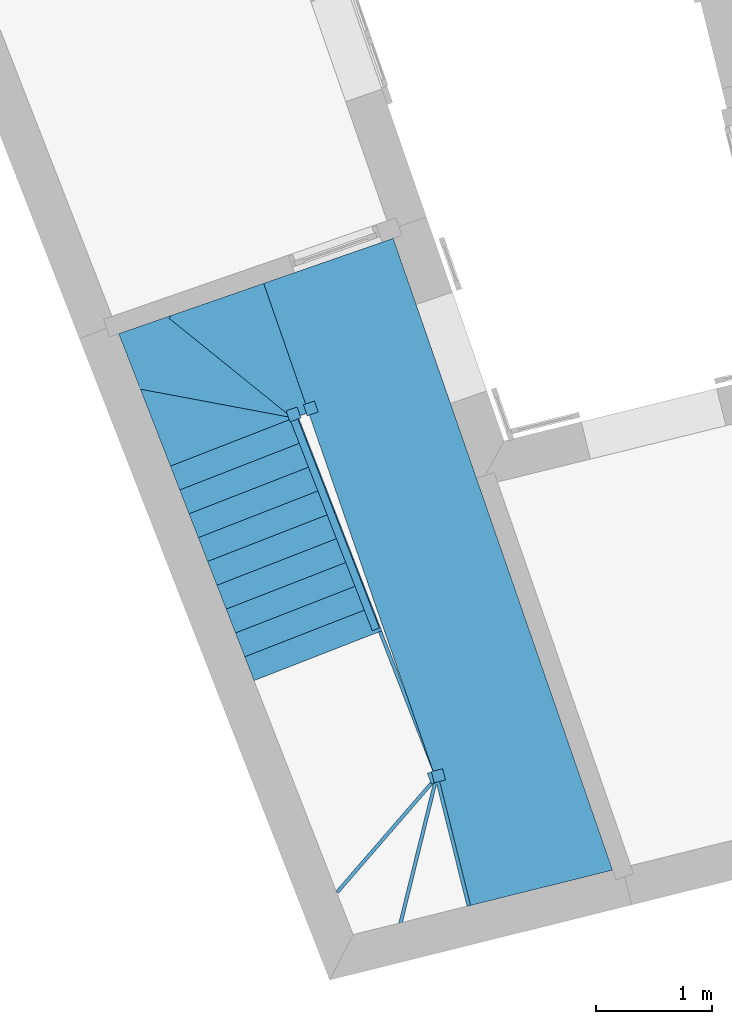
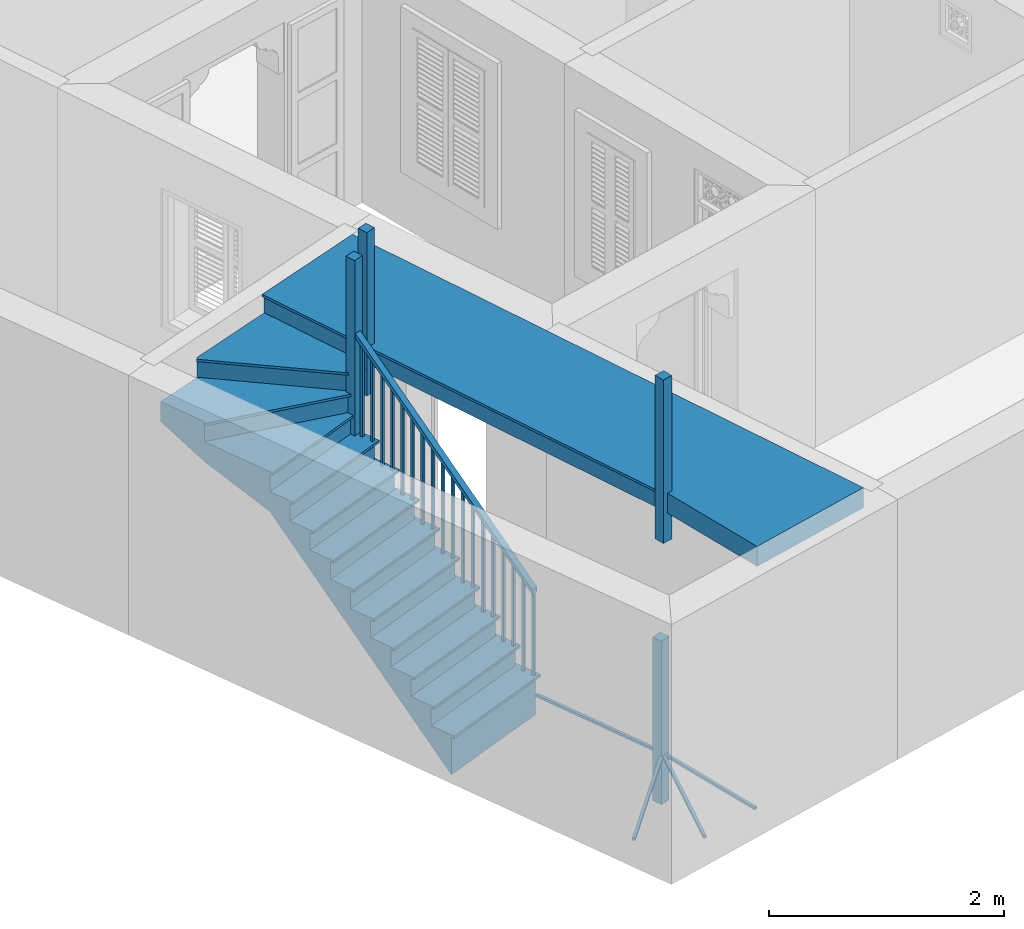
# One storey, part 12 of 12: 1 stair.
"""IFC4 building model written with IfcOpenShell, lengths in metres."""

import ifcopenshell
import ifcopenshell.guid

model = None  # the IFC model being written
_history = None  # IfcOwnerHistory: only IFC2X3 demands one
_inside = {}  # id of a spatial element -> (the spatial element, [elements in it])
_under = {}  # id of a project, library or spatial element -> (it, [spatial elements below it])
_declared = {}  # id of a project -> (the project, [libraries it declares])
_typed = {}  # id of a type object -> (the type object, [elements of that type])
_made_of = {}  # id of a material, layer set ... -> (it, [elements and type objects made of it])


def new_model(schema):
    """Start an empty IFC model of exactly this schema.

    Asked for "IFC4X3", IfcOpenShell would pick the latest addendum, in which some entities
    have other attributes; the version numbers below select the first issue.
    IFC2X3 requires an IfcOwnerHistory on every rooted entity: one is made here for all.
    """
    global model, _history
    if schema == "IFC4X3":
        model = ifcopenshell.file(schema_version=(4, 3, 0, 0))
    else:
        model = ifcopenshell.file(schema=schema)
    _inside.clear()
    _under.clear()
    _declared.clear()
    _typed.clear()
    _made_of.clear()
    _history = None
    if model.schema == "IFC2X3":
        org = make("IfcOrganization", Name="unknown")
        user = make(
            "IfcPersonAndOrganization",
            ThePerson=make("IfcPerson", FamilyName="unknown"),
            TheOrganization=org,
        )
        app = make(
            "IfcApplication",
            ApplicationDeveloper=org,
            Version="unknown",
            ApplicationFullName="unknown",
            ApplicationIdentifier="unknown",
        )
        _history = make(
            "IfcOwnerHistory",
            OwningUser=user,
            OwningApplication=app,
            ChangeAction="ADDED",
            CreationDate=0,
        )
    return model


def make(cls, **values):
    """One entity of the class cls with the attributes given. An attribute that is None is left unset."""
    return model.create_entity(
        cls, **{name: value for name, value in values.items() if value is not None}
    )


def rooted(cls, **values):
    """An entity with a GlobalId (a new one), such as an element, a storey or a relation."""
    return make(cls, GlobalId=ifcopenshell.guid.new(), OwnerHistory=_history, **values)


def si_unit(unit_type, name, prefix=None):
    """IfcSIUnit, for example si_unit("LENGTHUNIT", "METRE", prefix="MILLI")."""
    return make("IfcSIUnit", UnitType=unit_type, Prefix=prefix, Name=name)


def assignment(units):
    """IfcUnitAssignment: the units of a project."""
    return None if units is None else make("IfcUnitAssignment", Units=units)


def point(xyz):
    """IfcCartesianPoint."""
    return None if xyz is None else make("IfcCartesianPoint", Coordinates=xyz)


def direction(xyz):
    """IfcDirection."""
    return None if xyz is None else make("IfcDirection", DirectionRatios=xyz)


def frame(location, z_axis=None, x_axis=None):
    """IfcAxis2Placement3D, a coordinate frame: its origin and axes. An axis left out is left unset."""
    return make(
        "IfcAxis2Placement3D",
        Location=point(location),
        Axis=direction(z_axis),
        RefDirection=direction(x_axis),
    )


def origin():
    """The frame at (0, 0, 0) with its axes left unset."""
    return frame((0.0, 0.0, 0.0))


def origin_with_axes():
    """The frame at (0, 0, 0) with the z axis (0, 0, 1) and the x axis (1, 0, 0) written out."""
    return frame((0.0, 0.0, 0.0), z_axis=(0.0, 0.0, 1.0), x_axis=(1.0, 0.0, 0.0))


def place(relative_to, where):
    """IfcLocalPlacement: puts the frame where relative to a parent placement (None: the world)."""
    return make(
        "IfcLocalPlacement", PlacementRelTo=relative_to, RelativePlacement=where
    )


def context(
    kind, dimensions, precision=None, world=None, true_north=None, identifier=None
):
    """IfcGeometricRepresentationContext, for example the 3D "Model" context."""
    return make(
        "IfcGeometricRepresentationContext",
        ContextIdentifier=identifier,
        ContextType=kind,
        CoordinateSpaceDimension=dimensions,
        Precision=precision,
        WorldCoordinateSystem=world,
        TrueNorth=true_north,
    )


def subcontext(parent, identifier, kind, view, scale=None):
    """IfcGeometricRepresentationSubContext, for example "Body" below "Model"."""
    return make(
        "IfcGeometricRepresentationSubContext",
        ContextIdentifier=identifier,
        ContextType=kind,
        ParentContext=parent,
        TargetScale=scale,
        TargetView=view,
    )


def project(units=None, contexts=None):
    """IfcProject with its units and contexts."""
    return rooted(
        "IfcProject",
        Name="project",
        RepresentationContexts=contexts,
        UnitsInContext=assignment(units),
    )


def spatial(cls, under=None, at=None, **own):
    """A site, building, storey or space (cls), placed at a placement, below another one or the project."""
    s = rooted(cls, ObjectPlacement=at, **own)
    if under is not None:
        _under.setdefault(under.id(), (under, []))[1].append(s)
    return s


def faces_of(points, faces, orient=None, outer=None):
    """IfcFace entities. A face is a list of loops; a loop is a list of indices into points, from 0.

    orient and outer hold one flag for each loop. By default every Orientation is true, the
    first loop of a face is its IfcFaceOuterBound and the others are IfcFaceBound.
    """
    made = []
    for i, loops in enumerate(faces):
        bounds = []
        for j, loop in enumerate(loops):
            is_outer = j == 0 if outer is None else outer[i][j]
            bounds.append(
                make(
                    "IfcFaceOuterBound" if is_outer else "IfcFaceBound",
                    Bound=make("IfcPolyLoop", Polygon=[points[k] for k in loop]),
                    Orientation=True if orient is None else orient[i][j],
                )
            )
        made.append(make("IfcFace", Bounds=bounds))
    return made


def faceted_brep(points, faces, orient=None, outer=None, voids=None):
    """IfcFacetedBrep: a solid bounded by flat faces; with voids (closed shells), ...WithVoids."""
    shared = [point(p) for p in points]
    hull = make("IfcClosedShell", CfsFaces=faces_of(shared, faces, orient, outer))
    if voids is None:
        return make("IfcFacetedBrep", Outer=hull)
    return make(
        "IfcFacetedBrepWithVoids",
        Outer=hull,
        Voids=[
            make(cls, CfsFaces=faces_of(shared, fs, o, b)) for cls, fs, o, b in voids
        ],
    )


def shape(context_of_items, identifier, shape_type, items):
    """IfcShapeRepresentation: the items that make up one representation, for example the "Body"."""
    return make(
        "IfcShapeRepresentation",
        ContextOfItems=context_of_items,
        RepresentationIdentifier=identifier,
        RepresentationType=shape_type,
        Items=items,
    )


def made_of(thing, what):
    """Note that an element or type object is made of a material, layer set ...; save() writes the relation."""
    if what is not None:
        _made_of.setdefault(what.id(), (what, []))[1].append(thing)
    return thing


def element(
    cls,
    number,
    at=None,
    inside=None,
    cuts=None,
    type_object=None,
    material=None,
    context=None,
    identifier="Body",
    shape_type=None,
    held_by="IfcProductDefinitionShape",
    body=None,
    shapes=None,
    **own,
):
    """One element of the class cls, such as IfcWall. Its Tag is "e" and its number.

    at: its placement. inside: the storey or other place that contains it. cuts: it is an
    opening in that element (IfcRelVoidsElement). A single representation is given by context,
    identifier, shape_type and body (its items); several are given by shapes. held_by: the class
    of the entity that holds the representations. save() writes the other relations.
    """
    e = rooted(cls, Tag="e%d" % number, ObjectPlacement=at, **own)
    if body is not None:
        shapes = [shape(context, identifier, shape_type, body)]
    if shapes is not None:
        e.Representation = make(held_by, Representations=shapes)
    if inside is not None:
        _inside.setdefault(inside.id(), (inside, []))[1].append(e)
    if cuts is not None:
        rooted(
            "IfcRelVoidsElement", RelatingBuildingElement=cuts, RelatedOpeningElement=e
        )
    if type_object is not None:
        _typed.setdefault(type_object.id(), (type_object, []))[1].append(e)
    return made_of(e, material)


def aggregate(whole, parts):
    """IfcRelAggregates: a whole, such as a stair, and the parts it consists of."""
    return rooted("IfcRelAggregates", RelatingObject=whole, RelatedObjects=parts)


def save(model, path):
    """Write the relations noted so far, then the file.

    IfcRelAggregates (storeys below a building ...), IfcRelContainedInSpatialStructure (elements
    in a storey), IfcRelDefinesByType, IfcRelAssociatesMaterial and IfcRelDeclares: one each for
    every whole, place, type object, material and project.
    """
    for whole, parts in _under.values():
        aggregate(whole, parts)
    for where, things in _inside.values():
        rooted(
            "IfcRelContainedInSpatialStructure",
            RelatedElements=things,
            RelatingStructure=where,
        )
    for kind, things in _typed.values():
        rooted("IfcRelDefinesByType", RelatedObjects=things, RelatingType=kind)
    for what, things in _made_of.values():
        rooted("IfcRelAssociatesMaterial", RelatedObjects=things, RelatingMaterial=what)
    for by, libraries in _declared.values():
        rooted("IfcRelDeclares", RelatingContext=by, RelatedDefinitions=libraries)
    model.write(path)


model = new_model("IFC4")

# Units and contexts
model_context = context("Model", 3, world=origin_with_axes())
body_context = subcontext(model_context, "Body", "Model", "MODEL_VIEW")
ifc_project = project(units=[si_unit("PLANEANGLEUNIT", "RADIAN"), si_unit("MASSUNIT", "GRAM", prefix="KILO"), si_unit("FORCEUNIT", "NEWTON", prefix="KILO"), si_unit("LENGTHUNIT", "METRE"), si_unit("AREAUNIT", "SQUARE_METRE"), si_unit("VOLUMEUNIT", "CUBIC_METRE")], contexts=[model_context, model_context])

# Site, building, storey
site_placement = place(None, origin_with_axes())
site = spatial("IfcSite", under=ifc_project, at=site_placement, Name="Site plot-1", CompositionType="ELEMENT")
building_placement = place(None, origin_with_axes())
building = spatial("IfcBuilding", under=site, at=building_placement, Name="Building plot-1", CompositionType="ELEMENT")
storey_placement = place(None, origin_with_axes())
storey = spatial("IfcBuildingStorey", under=building, at=storey_placement, Name="plot-1 0", CompositionType="ELEMENT", Elevation=0.0)

# Stair
stair_placement = place(None, origin())
element("IfcStair", 1, at=stair_placement, inside=storey, Name="Stair", PredefinedType="NOTDEFINED", context=body_context, shape_type="Brep", body=[
    faceted_brep([(-1.281854, 18.426193, 2.492308), (-1.658682, 19.511182, 2.492308), (-1.806991, 19.459673, 2.492308), (-1.430163, 18.374684, 2.492308), (-1.430163, 18.374684, 2.284615), (-1.806991, 19.459673, 2.284615), (-1.658682, 19.511182, 2.284615), (-1.281854, 18.426193, 2.284615)], [[[0, 1, 2, 3]], [[4, 5, 6, 7]], [[7, 6, 1, 0]], [[6, 5, 2, 1]], [[5, 4, 3, 2]], [[4, 7, 0, 3]]]),
    faceted_brep([(-1.430163, 18.374684, 2.467308), (-1.420321, 18.346345, 2.467308), (-1.430163, 18.374684, 2.492308), (-1.272012, 18.397854, 2.467308), (-1.281854, 18.426193, 2.467308), (-1.281854, 18.426193, 2.492308), (-1.420321, 18.346345, 2.492308), (-1.272012, 18.397854, 2.492308)], [[[0, 1, 2]], [[3, 4, 5]], [[1, 6, 2]], [[7, 3, 5]], [[2, 6, 7, 5]], [[0, 2, 5, 4]], [[1, 0, 4, 3]], [[6, 1, 3, 7]]]),
    faceted_brep([(-1.460991, 18.311048, 3.692308), (-1.366526, 18.343856, 3.692308), (-1.399335, 18.438321, 3.692308), (-1.4938, 18.405512, 3.692308), (-1.4938, 18.405512, 2.492308), (-1.399335, 18.438321, 2.492308), (-1.366526, 18.343856, 2.492308), (-1.460991, 18.311048, 2.492308)], [[[0, 1, 2, 3]], [[4, 5, 6, 7]], [[7, 6, 1, 0]], [[6, 5, 2, 1]], [[5, 4, 3, 2]], [[4, 7, 0, 3]]]),
    faceted_brep([(-1.806991, 19.459673, 2.492308), (-2.482915, 19.224917, 2.492308), (-1.430163, 18.374684, 2.492308), (-1.430163, 18.374684, 2.076923), (-2.482915, 19.224917, 2.076923), (-1.806991, 19.459673, 2.284615)], [[[0, 1, 2]], [[3, 4, 5]], [[0, 5, 4, 1]], [[4, 3, 2, 1]], [[2, 3, 5, 0]]]),
    faceted_brep([(-2.501764, 19.201579, 2.467308), (-2.501764, 19.201579, 2.492308), (-2.482915, 19.224917, 2.467308), (-1.449012, 18.351345, 2.492308), (-1.449012, 18.351345, 2.467308), (-1.430163, 18.374684, 2.467308), (-2.482915, 19.224917, 2.492308), (-1.430163, 18.374684, 2.492308)], [[[0, 1, 2]], [[3, 4, 5]], [[2, 1, 6]], [[3, 5, 7]], [[6, 1, 3, 7]], [[2, 6, 7, 5]], [[0, 2, 5, 4]], [[1, 0, 4, 3]]]),
    faceted_brep([(-2.482915, 19.224917, 2.284615), (-2.933531, 19.068414, 2.284615), (-2.760211, 18.623995, 2.284615), (-1.430163, 18.374684, 2.284615), (-1.430163, 18.374684, 1.869231), (-2.760211, 18.623995, 1.869231), (-2.933531, 19.068414, 2.076923), (-2.482915, 19.224917, 2.076923)], [[[0, 1, 2, 3]], [[4, 5, 6, 7]], [[7, 6, 1, 0]], [[1, 6, 5, 2]], [[5, 4, 3, 2]], [[3, 4, 7, 0]]]),
    faceted_brep([(-2.760211, 18.623995, 2.259615), (-2.765738, 18.594508, 2.259615), (-2.760211, 18.623995, 2.284615), (-1.43569, 18.345198, 2.259615), (-1.430163, 18.374684, 2.259615), (-1.430163, 18.374684, 2.284615), (-2.765738, 18.594508, 2.284615), (-1.43569, 18.345198, 2.284615)], [[[0, 1, 2]], [[3, 4, 5]], [[1, 6, 2]], [[7, 3, 5]], [[2, 6, 7, 5]], [[0, 2, 5, 4]], [[1, 0, 4, 3]], [[6, 1, 3, 7]]]),
    faceted_brep([(-2.760211, 18.623995, 2.076923), (-2.500231, 17.957366, 2.076923), (-1.430163, 18.374684, 2.076923), (-1.430163, 18.374684, 1.661538), (-2.500231, 17.957366, 1.661538), (-2.760211, 18.623995, 1.869231)], [[[0, 1, 2]], [[3, 4, 5]], [[0, 5, 4, 1]], [[4, 3, 2, 1]], [[2, 3, 5, 0]]]),
    faceted_brep([(-2.500231, 17.957366, 2.051923), (-2.489331, 17.929416, 2.051923), (-2.500231, 17.957366, 2.076923), (-1.419263, 18.346735, 2.051923), (-1.430163, 18.374684, 2.051923), (-1.430163, 18.374684, 2.076923), (-2.489331, 17.929416, 2.076923), (-1.419263, 18.346735, 2.076923)], [[[0, 1, 2]], [[3, 4, 5]], [[1, 6, 2]], [[7, 3, 5]], [[2, 6, 7, 5]], [[0, 2, 5, 4]], [[1, 0, 4, 3]], [[6, 1, 3, 7]]]),
    faceted_brep([(-1.460991, 18.311048, 2.492308), (-1.366526, 18.343856, 2.492308), (-1.399335, 18.438321, 2.492308), (-1.4938, 18.405512, 2.492308), (-1.4938, 18.405512, 1.576923), (-1.399335, 18.438321, 1.576923), (-1.366526, 18.343856, 1.576923), (-1.460991, 18.311048, 1.576923)], [[[0, 1, 2, 3]], [[4, 5, 6, 7]], [[7, 6, 1, 0]], [[6, 5, 2, 1]], [[5, 4, 3, 2]], [[4, 7, 0, 3]]]),
    faceted_brep([(-1.430163, 18.374684, 1.869231), (-2.500231, 17.957366, 1.869231), (-2.420296, 17.752402, 1.869231), (-1.350228, 18.16972, 1.869231), (-1.350228, 18.16972, 1.453846), (-2.420296, 17.752402, 1.453846), (-2.500231, 17.957366, 1.661538), (-1.430163, 18.374684, 1.661538)], [[[0, 1, 2, 3]], [[4, 5, 6, 7]], [[7, 6, 1, 0]], [[1, 6, 5, 2]], [[5, 4, 3, 2]], [[3, 4, 7, 0]]]),
    faceted_brep([(-2.420296, 17.752402, 1.844231), (-2.409396, 17.724452, 1.844231), (-2.420296, 17.752402, 1.869231), (-2.511131, 17.985316, 1.844231), (-2.500231, 17.957366, 1.844231), (-2.500231, 17.957366, 1.869231), (-2.409396, 17.724452, 1.869231), (-2.511131, 17.985316, 1.869231), (-1.311379, 18.15267, 1.869231), (-1.350228, 18.16972, 1.869231), (-1.350228, 18.16972, 1.844231), (-1.311379, 18.15267, 1.844231), (-1.413114, 18.413534, 1.869231), (-1.430163, 18.374684, 1.869231), (-1.430163, 18.374684, 1.844231), (-1.413114, 18.413534, 1.844231)], [[[0, 1, 2]], [[3, 4, 5]], [[1, 6, 2]], [[7, 3, 5]], [[2, 6, 8, 9]], [[0, 2, 9, 10]], [[1, 0, 10, 11]], [[6, 1, 11, 8]], [[9, 8, 12, 13]], [[10, 9, 13, 14]], [[11, 10, 14, 15]], [[8, 11, 15, 12]], [[13, 12, 7, 5]], [[14, 13, 5, 4]], [[15, 14, 4, 3]], [[12, 15, 3, 7]]]),
    faceted_brep([(-1.350228, 18.16972, 2.769231), (-1.359312, 18.193011, 2.769231), (-1.382603, 18.183928, 2.769231), (-1.37352, 18.160636, 2.769231), (-1.37352, 18.160636, 1.869231), (-1.382603, 18.183928, 1.869231), (-1.359312, 18.193011, 1.869231), (-1.350228, 18.16972, 1.869231)], [[[0, 1, 2, 3]], [[4, 5, 6, 7]], [[7, 6, 1, 0]], [[6, 5, 2, 1]], [[5, 4, 3, 2]], [[4, 7, 0, 3]]]),
    faceted_brep([(-1.390196, 18.272202, 2.873077), (-1.399279, 18.295493, 2.873077), (-1.422571, 18.28641, 2.873077), (-1.413487, 18.263119, 2.873077), (-1.413487, 18.263119, 1.869231), (-1.422571, 18.28641, 1.869231), (-1.399279, 18.295493, 1.869231), (-1.390196, 18.272202, 1.869231)], [[[0, 1, 2, 3]], [[4, 5, 6, 7]], [[7, 6, 1, 0]], [[6, 5, 2, 1]], [[5, 4, 3, 2]], [[4, 7, 0, 3]]]),
    faceted_brep([(-1.392153, 18.153369, 2.719231), (-1.331595, 18.176987, 2.719231), (-1.331595, 18.176987, 2.769231), (-1.392153, 18.153369, 2.769231), (-1.41153, 18.381951, 2.926923), (-1.472088, 18.358334, 2.926923), (-1.472088, 18.358334, 2.976923), (-1.41153, 18.381951, 2.976923)], [[[0, 1, 2, 3]], [[4, 5, 6, 7]], [[0, 5, 4, 1]], [[3, 2, 7, 6]], [[0, 3, 6, 5]], [[2, 1, 4, 7]]]),
    faceted_brep([(-1.350228, 18.16972, 1.661538), (-2.420296, 17.752402, 1.661538), (-2.340362, 17.547437, 1.661538), (-1.270294, 17.964755, 1.661538), (-1.270294, 17.964755, 1.246154), (-2.340362, 17.547437, 1.246154), (-2.420296, 17.752402, 1.453846), (-1.350228, 18.16972, 1.453846)], [[[0, 1, 2, 3]], [[4, 5, 6, 7]], [[7, 6, 1, 0]], [[1, 6, 5, 2]], [[5, 4, 3, 2]], [[3, 4, 7, 0]]]),
    faceted_brep([(-2.340362, 17.547437, 1.636538), (-2.329461, 17.519487, 1.636538), (-2.340362, 17.547437, 1.661538), (-2.431196, 17.780351, 1.636538), (-2.420296, 17.752402, 1.636538), (-2.420296, 17.752402, 1.661538), (-2.329461, 17.519487, 1.661538), (-2.431196, 17.780351, 1.661538), (-1.231444, 17.947706, 1.661538), (-1.270294, 17.964755, 1.661538), (-1.270294, 17.964755, 1.636538), (-1.231444, 17.947706, 1.636538), (-1.333179, 18.20857, 1.661538), (-1.350228, 18.16972, 1.661538), (-1.350228, 18.16972, 1.636538), (-1.333179, 18.20857, 1.636538)], [[[0, 1, 2]], [[3, 4, 5]], [[1, 6, 2]], [[7, 3, 5]], [[2, 6, 8, 9]], [[0, 2, 9, 10]], [[1, 0, 10, 11]], [[6, 1, 11, 8]], [[9, 8, 12, 13]], [[10, 9, 13, 14]], [[11, 10, 14, 15]], [[8, 11, 15, 12]], [[13, 12, 7, 5]], [[14, 13, 5, 4]], [[15, 14, 4, 3]], [[12, 15, 3, 7]]]),
    faceted_brep([(-1.270294, 17.964755, 2.561538), (-1.279377, 17.988047, 2.561538), (-1.302669, 17.978963, 2.561538), (-1.293585, 17.955672, 2.561538), (-1.293585, 17.955672, 1.661538), (-1.302669, 17.978963, 1.661538), (-1.279377, 17.988047, 1.661538), (-1.270294, 17.964755, 1.661538)], [[[0, 1, 2, 3]], [[4, 5, 6, 7]], [[7, 6, 1, 0]], [[6, 5, 2, 1]], [[5, 4, 3, 2]], [[4, 7, 0, 3]]]),
    faceted_brep([(-1.310261, 18.067237, 2.665385), (-1.319345, 18.090529, 2.665385), (-1.342636, 18.081445, 2.665385), (-1.333553, 18.058154, 2.665385), (-1.333553, 18.058154, 1.661538), (-1.342636, 18.081445, 1.661538), (-1.319345, 18.090529, 1.661538), (-1.310261, 18.067237, 1.661538)], [[[0, 1, 2, 3]], [[4, 5, 6, 7]], [[7, 6, 1, 0]], [[6, 5, 2, 1]], [[5, 4, 3, 2]], [[4, 7, 0, 3]]]),
    faceted_brep([(-1.312218, 17.948405, 2.511538), (-1.251661, 17.972022, 2.511538), (-1.251661, 17.972022, 2.561538), (-1.312218, 17.948405, 2.561538), (-1.331595, 18.176987, 2.719231), (-1.392153, 18.153369, 2.719231), (-1.392153, 18.153369, 2.769231), (-1.331595, 18.176987, 2.769231)], [[[0, 1, 2, 3]], [[4, 5, 6, 7]], [[0, 5, 4, 1]], [[3, 2, 7, 6]], [[0, 3, 6, 5]], [[2, 1, 4, 7]]]),
    faceted_brep([(-1.270294, 17.964755, 1.453846), (-2.340362, 17.547437, 1.453846), (-2.260427, 17.342473, 1.453846), (-1.190359, 17.759791, 1.453846), (-1.190359, 17.759791, 1.038462), (-2.260427, 17.342473, 1.038462), (-2.340362, 17.547437, 1.246154), (-1.270294, 17.964755, 1.246154)], [[[0, 1, 2, 3]], [[4, 5, 6, 7]], [[7, 6, 1, 0]], [[1, 6, 5, 2]], [[5, 4, 3, 2]], [[3, 4, 7, 0]]]),
    faceted_brep([(-2.260427, 17.342473, 1.428846), (-2.249527, 17.314523, 1.428846), (-2.260427, 17.342473, 1.453846), (-2.351262, 17.575387, 1.428846), (-2.340362, 17.547437, 1.428846), (-2.340362, 17.547437, 1.453846), (-2.249527, 17.314523, 1.453846), (-2.351262, 17.575387, 1.453846), (-1.151509, 17.742741, 1.453846), (-1.190359, 17.759791, 1.453846), (-1.190359, 17.759791, 1.428846), (-1.151509, 17.742741, 1.428846), (-1.253244, 18.003605, 1.453846), (-1.270294, 17.964755, 1.453846), (-1.270294, 17.964755, 1.428846), (-1.253244, 18.003605, 1.428846)], [[[0, 1, 2]], [[3, 4, 5]], [[1, 6, 2]], [[7, 3, 5]], [[2, 6, 8, 9]], [[0, 2, 9, 10]], [[1, 0, 10, 11]], [[6, 1, 11, 8]], [[9, 8, 12, 13]], [[10, 9, 13, 14]], [[11, 10, 14, 15]], [[8, 11, 15, 12]], [[13, 12, 7, 5]], [[14, 13, 5, 4]], [[15, 14, 4, 3]], [[12, 15, 3, 7]]]),
    faceted_brep([(-1.190359, 17.759791, 2.353846), (-1.199443, 17.783082, 2.353846), (-1.222734, 17.773999, 2.353846), (-1.213651, 17.750707, 2.353846), (-1.213651, 17.750707, 1.453846), (-1.222734, 17.773999, 1.453846), (-1.199443, 17.783082, 1.453846), (-1.190359, 17.759791, 1.453846)], [[[0, 1, 2, 3]], [[4, 5, 6, 7]], [[7, 6, 1, 0]], [[6, 5, 2, 1]], [[5, 4, 3, 2]], [[4, 7, 0, 3]]]),
    faceted_brep([(-1.230327, 17.862273, 2.457692), (-1.23941, 17.885564, 2.457692), (-1.262702, 17.876481, 2.457692), (-1.253618, 17.853189, 2.457692), (-1.253618, 17.853189, 1.453846), (-1.262702, 17.876481, 1.453846), (-1.23941, 17.885564, 1.453846), (-1.230327, 17.862273, 1.453846)], [[[0, 1, 2, 3]], [[4, 5, 6, 7]], [[7, 6, 1, 0]], [[6, 5, 2, 1]], [[5, 4, 3, 2]], [[4, 7, 0, 3]]]),
    faceted_brep([(-1.232284, 17.74344, 2.303846), (-1.171726, 17.767057, 2.303846), (-1.171726, 17.767057, 2.353846), (-1.232284, 17.74344, 2.353846), (-1.251661, 17.972022, 2.511538), (-1.312218, 17.948405, 2.511538), (-1.312218, 17.948405, 2.561538), (-1.251661, 17.972022, 2.561538)], [[[0, 1, 2, 3]], [[4, 5, 6, 7]], [[0, 5, 4, 1]], [[3, 2, 7, 6]], [[0, 3, 6, 5]], [[2, 1, 4, 7]]]),
    faceted_brep([(-1.190359, 17.759791, 1.246154), (-2.260427, 17.342473, 1.246154), (-2.180492, 17.137508, 1.246154), (-1.110425, 17.554826, 1.246154), (-1.110425, 17.554826, 0.830769), (-2.180492, 17.137508, 0.830769), (-2.260427, 17.342473, 1.038462), (-1.190359, 17.759791, 1.038462)], [[[0, 1, 2, 3]], [[4, 5, 6, 7]], [[7, 6, 1, 0]], [[1, 6, 5, 2]], [[5, 4, 3, 2]], [[3, 4, 7, 0]]]),
    faceted_brep([(-2.180492, 17.137508, 1.221154), (-2.169592, 17.109558, 1.221154), (-2.180492, 17.137508, 1.246154), (-2.271327, 17.370422, 1.221154), (-2.260427, 17.342473, 1.221154), (-2.260427, 17.342473, 1.246154), (-2.169592, 17.109558, 1.246154), (-2.271327, 17.370422, 1.246154), (-1.071575, 17.537777, 1.246154), (-1.110425, 17.554826, 1.246154), (-1.110425, 17.554826, 1.221154), (-1.071575, 17.537777, 1.221154), (-1.17331, 17.798641, 1.246154), (-1.190359, 17.759791, 1.246154), (-1.190359, 17.759791, 1.221154), (-1.17331, 17.798641, 1.221154)], [[[0, 1, 2]], [[3, 4, 5]], [[1, 6, 2]], [[7, 3, 5]], [[2, 6, 8, 9]], [[0, 2, 9, 10]], [[1, 0, 10, 11]], [[6, 1, 11, 8]], [[9, 8, 12, 13]], [[10, 9, 13, 14]], [[11, 10, 14, 15]], [[8, 11, 15, 12]], [[13, 12, 7, 5]], [[14, 13, 5, 4]], [[15, 14, 4, 3]], [[12, 15, 3, 7]]]),
    faceted_brep([(-1.110425, 17.554826, 2.146154), (-1.119508, 17.578118, 2.146154), (-1.1428, 17.569034, 2.146154), (-1.133716, 17.545743, 2.146154), (-1.133716, 17.545743, 1.246154), (-1.1428, 17.569034, 1.246154), (-1.119508, 17.578118, 1.246154), (-1.110425, 17.554826, 1.246154)], [[[0, 1, 2, 3]], [[4, 5, 6, 7]], [[7, 6, 1, 0]], [[6, 5, 2, 1]], [[5, 4, 3, 2]], [[4, 7, 0, 3]]]),
    faceted_brep([(-1.150392, 17.657308, 2.25), (-1.159476, 17.6806, 2.25), (-1.182767, 17.671516, 2.25), (-1.173683, 17.648225, 2.25), (-1.173683, 17.648225, 1.246154), (-1.182767, 17.671516, 1.246154), (-1.159476, 17.6806, 1.246154), (-1.150392, 17.657308, 1.246154)], [[[0, 1, 2, 3]], [[4, 5, 6, 7]], [[7, 6, 1, 0]], [[6, 5, 2, 1]], [[5, 4, 3, 2]], [[4, 7, 0, 3]]]),
    faceted_brep([(-1.152349, 17.538476, 2.096154), (-1.091792, 17.562093, 2.096154), (-1.091792, 17.562093, 2.146154), (-1.152349, 17.538476, 2.146154), (-1.171726, 17.767057, 2.303846), (-1.232284, 17.74344, 2.303846), (-1.232284, 17.74344, 2.353846), (-1.171726, 17.767057, 2.353846)], [[[0, 1, 2, 3]], [[4, 5, 6, 7]], [[0, 5, 4, 1]], [[3, 2, 7, 6]], [[0, 3, 6, 5]], [[2, 1, 4, 7]]]),
    faceted_brep([(-1.110425, 17.554826, 1.038462), (-2.180492, 17.137508, 1.038462), (-2.100558, 16.932543, 1.038462), (-1.03049, 17.349862, 1.038462), (-1.03049, 17.349862, 0.623077), (-2.100558, 16.932543, 0.623077), (-2.180492, 17.137508, 0.830769), (-1.110425, 17.554826, 0.830769)], [[[0, 1, 2, 3]], [[4, 5, 6, 7]], [[7, 6, 1, 0]], [[1, 6, 5, 2]], [[5, 4, 3, 2]], [[3, 4, 7, 0]]]),
    faceted_brep([(-2.089658, 16.904594, 1.013462), (-2.089658, 16.904594, 1.038462), (-2.100558, 16.932543, 1.013462), (-2.191393, 17.165458, 1.038462), (-2.191393, 17.165458, 1.013462), (-2.180492, 17.137508, 1.013462), (-2.100558, 16.932543, 1.038462), (-2.180492, 17.137508, 1.038462), (-0.99164, 17.332812, 1.038462), (-1.03049, 17.349862, 1.038462), (-1.03049, 17.349862, 1.013462), (-0.99164, 17.332812, 1.013462), (-1.093375, 17.593676, 1.038462), (-1.110425, 17.554826, 1.038462), (-1.110425, 17.554826, 1.013462), (-1.093375, 17.593676, 1.013462)], [[[0, 1, 2]], [[3, 4, 5]], [[2, 1, 6]], [[3, 5, 7]], [[6, 1, 8, 9]], [[2, 6, 9, 10]], [[0, 2, 10, 11]], [[1, 0, 11, 8]], [[9, 8, 12, 13]], [[10, 9, 13, 14]], [[11, 10, 14, 15]], [[8, 11, 15, 12]], [[13, 12, 3, 7]], [[14, 13, 7, 5]], [[15, 14, 5, 4]], [[12, 15, 4, 3]]]),
    faceted_brep([(-1.03049, 17.349862, 1.938462), (-1.039574, 17.373153, 1.938462), (-1.062865, 17.36407, 1.938462), (-1.053782, 17.340778, 1.938462), (-1.053782, 17.340778, 1.038462), (-1.062865, 17.36407, 1.038462), (-1.039574, 17.373153, 1.038462), (-1.03049, 17.349862, 1.038462)], [[[0, 1, 2, 3]], [[4, 5, 6, 7]], [[7, 6, 1, 0]], [[6, 5, 2, 1]], [[5, 4, 3, 2]], [[4, 7, 0, 3]]]),
    faceted_brep([(-1.070457, 17.452344, 2.042308), (-1.079541, 17.475635, 2.042308), (-1.102832, 17.466552, 2.042308), (-1.093749, 17.44326, 2.042308), (-1.093749, 17.44326, 1.038462), (-1.102832, 17.466552, 1.038462), (-1.079541, 17.475635, 1.038462), (-1.070457, 17.452344, 1.038462)], [[[0, 1, 2, 3]], [[4, 5, 6, 7]], [[7, 6, 1, 0]], [[6, 5, 2, 1]], [[5, 4, 3, 2]], [[4, 7, 0, 3]]]),
    faceted_brep([(-1.072415, 17.333511, 1.888462), (-1.011857, 17.357128, 1.888462), (-1.011857, 17.357128, 1.938462), (-1.072415, 17.333511, 1.938462), (-1.091792, 17.562093, 2.096154), (-1.152349, 17.538476, 2.096154), (-1.152349, 17.538476, 2.146154), (-1.091792, 17.562093, 2.146154)], [[[0, 1, 2, 3]], [[4, 5, 6, 7]], [[0, 5, 4, 1]], [[3, 2, 7, 6]], [[0, 3, 6, 5]], [[2, 1, 4, 7]]]),
    faceted_brep([(-1.03049, 17.349862, 0.830769), (-2.100558, 16.932543, 0.830769), (-2.020623, 16.727579, 0.830769), (-0.950556, 17.144897, 0.830769), (-0.950556, 17.144897, 0.415385), (-2.020623, 16.727579, 0.415385), (-2.100558, 16.932543, 0.623077), (-1.03049, 17.349862, 0.623077)], [[[0, 1, 2, 3]], [[4, 5, 6, 7]], [[7, 6, 1, 0]], [[1, 6, 5, 2]], [[5, 4, 3, 2]], [[3, 4, 7, 0]]]),
    faceted_brep([(-2.009723, 16.699629, 0.805769), (-2.009723, 16.699629, 0.830769), (-2.020623, 16.727579, 0.805769), (-2.111458, 16.960493, 0.830769), (-2.111458, 16.960493, 0.805769), (-2.100558, 16.932543, 0.805769), (-2.020623, 16.727579, 0.830769), (-2.100558, 16.932543, 0.830769), (-0.911706, 17.127847, 0.830769), (-0.950556, 17.144897, 0.830769), (-0.950556, 17.144897, 0.805769), (-0.911706, 17.127847, 0.805769), (-1.013441, 17.388711, 0.830769), (-1.03049, 17.349862, 0.830769), (-1.03049, 17.349862, 0.805769), (-1.013441, 17.388711, 0.805769)], [[[0, 1, 2]], [[3, 4, 5]], [[2, 1, 6]], [[3, 5, 7]], [[6, 1, 8, 9]], [[2, 6, 9, 10]], [[0, 2, 10, 11]], [[1, 0, 11, 8]], [[9, 8, 12, 13]], [[10, 9, 13, 14]], [[11, 10, 14, 15]], [[8, 11, 15, 12]], [[13, 12, 3, 7]], [[14, 13, 7, 5]], [[15, 14, 5, 4]], [[12, 15, 4, 3]]]),
    faceted_brep([(-0.950556, 17.144897, 1.730769), (-0.959639, 17.168188, 1.730769), (-0.98293, 17.159105, 1.730769), (-0.973847, 17.135814, 1.730769), (-0.973847, 17.135814, 0.830769), (-0.98293, 17.159105, 0.830769), (-0.959639, 17.168188, 0.830769), (-0.950556, 17.144897, 0.830769)], [[[0, 1, 2, 3]], [[4, 5, 6, 7]], [[7, 6, 1, 0]], [[6, 5, 2, 1]], [[5, 4, 3, 2]], [[4, 7, 0, 3]]]),
    faceted_brep([(-0.990523, 17.247379, 1.834615), (-0.999606, 17.270671, 1.834615), (-1.022898, 17.261587, 1.834615), (-1.013814, 17.238296, 1.834615), (-1.013814, 17.238296, 0.830769), (-1.022898, 17.261587, 0.830769), (-0.999606, 17.270671, 0.830769), (-0.990523, 17.247379, 0.830769)], [[[0, 1, 2, 3]], [[4, 5, 6, 7]], [[7, 6, 1, 0]], [[6, 5, 2, 1]], [[5, 4, 3, 2]], [[4, 7, 0, 3]]]),
    faceted_brep([(-0.99248, 17.128547, 1.680769), (-0.931922, 17.152164, 1.680769), (-0.931922, 17.152164, 1.730769), (-0.99248, 17.128547, 1.730769), (-1.011857, 17.357128, 1.888462), (-1.072415, 17.333511, 1.888462), (-1.072415, 17.333511, 1.938462), (-1.011857, 17.357128, 1.938462)], [[[0, 1, 2, 3]], [[4, 5, 6, 7]], [[0, 5, 4, 1]], [[3, 2, 7, 6]], [[0, 3, 6, 5]], [[2, 1, 4, 7]]]),
    faceted_brep([(-0.950556, 17.144897, 0.623077), (-2.020623, 16.727579, 0.623077), (-1.940689, 16.522614, 0.623077), (-0.870621, 16.939932, 0.623077), (-0.870621, 16.939932, 0.207692), (-1.940689, 16.522614, 0.207692), (-2.020623, 16.727579, 0.415385), (-0.950556, 17.144897, 0.415385)], [[[0, 1, 2, 3]], [[4, 5, 6, 7]], [[7, 6, 1, 0]], [[1, 6, 5, 2]], [[5, 4, 3, 2]], [[3, 4, 7, 0]]]),
    faceted_brep([(-1.929789, 16.494665, 0.598077), (-1.929789, 16.494665, 0.623077), (-1.940689, 16.522614, 0.598077), (-2.031523, 16.755529, 0.623077), (-2.031523, 16.755529, 0.598077), (-2.020623, 16.727579, 0.598077), (-1.940689, 16.522614, 0.623077), (-2.020623, 16.727579, 0.623077), (-0.831771, 16.922883, 0.623077), (-0.870621, 16.939932, 0.623077), (-0.870621, 16.939932, 0.598077), (-0.831771, 16.922883, 0.598077), (-0.933506, 17.183747, 0.623077), (-0.950556, 17.144897, 0.623077), (-0.950556, 17.144897, 0.598077), (-0.933506, 17.183747, 0.598077)], [[[0, 1, 2]], [[3, 4, 5]], [[2, 1, 6]], [[3, 5, 7]], [[6, 1, 8, 9]], [[2, 6, 9, 10]], [[0, 2, 10, 11]], [[1, 0, 11, 8]], [[9, 8, 12, 13]], [[10, 9, 13, 14]], [[11, 10, 14, 15]], [[8, 11, 15, 12]], [[13, 12, 3, 7]], [[14, 13, 7, 5]], [[15, 14, 5, 4]], [[12, 15, 4, 3]]]),
    faceted_brep([(-0.870621, 16.939932, 1.523077), (-0.879704, 16.963224, 1.523077), (-0.902996, 16.95414, 1.523077), (-0.893912, 16.930849, 1.523077), (-0.893912, 16.930849, 0.623077), (-0.902996, 16.95414, 0.623077), (-0.879704, 16.963224, 0.623077), (-0.870621, 16.939932, 0.623077)], [[[0, 1, 2, 3]], [[4, 5, 6, 7]], [[7, 6, 1, 0]], [[6, 5, 2, 1]], [[5, 4, 3, 2]], [[4, 7, 0, 3]]]),
    faceted_brep([(-0.910588, 17.042415, 1.626923), (-0.919672, 17.065706, 1.626923), (-0.942963, 17.056623, 1.626923), (-0.93388, 17.033331, 1.626923), (-0.93388, 17.033331, 0.623077), (-0.942963, 17.056623, 0.623077), (-0.919672, 17.065706, 0.623077), (-0.910588, 17.042415, 0.623077)], [[[0, 1, 2, 3]], [[4, 5, 6, 7]], [[7, 6, 1, 0]], [[6, 5, 2, 1]], [[5, 4, 3, 2]], [[4, 7, 0, 3]]]),
    faceted_brep([(-0.912546, 16.923582, 1.473077), (-0.851988, 16.947199, 1.473077), (-0.851988, 16.947199, 1.523077), (-0.912546, 16.923582, 1.523077), (-0.931922, 17.152164, 1.680769), (-0.99248, 17.128547, 1.680769), (-0.99248, 17.128547, 1.730769), (-0.931922, 17.152164, 1.730769)], [[[0, 1, 2, 3]], [[4, 5, 6, 7]], [[0, 5, 4, 1]], [[3, 2, 7, 6]], [[0, 3, 6, 5]], [[2, 1, 4, 7]]]),
    faceted_brep([(-0.870621, 16.939932, 0.415385), (-1.940689, 16.522614, 0.415385), (-1.860754, 16.31765, 0.415385), (-0.790686, 16.734968, 0.415385), (-0.790686, 16.734968, 0.0), (-1.860754, 16.31765, 0.0), (-1.940689, 16.522614, 0.207692), (-0.870621, 16.939932, 0.207692)], [[[0, 1, 2, 3]], [[4, 5, 6, 7]], [[7, 6, 1, 0]], [[1, 6, 5, 2]], [[5, 4, 3, 2]], [[3, 4, 7, 0]]]),
    faceted_brep([(-1.860754, 16.31765, 0.390385), (-1.849854, 16.2897, 0.390385), (-1.860754, 16.31765, 0.415385), (-1.951589, 16.550564, 0.390385), (-1.940689, 16.522614, 0.390385), (-1.940689, 16.522614, 0.415385), (-1.849854, 16.2897, 0.415385), (-1.951589, 16.550564, 0.415385), (-0.751837, 16.717918, 0.415385), (-0.790686, 16.734968, 0.415385), (-0.790686, 16.734968, 0.390385), (-0.751837, 16.717918, 0.390385), (-0.853571, 16.978782, 0.415385), (-0.870621, 16.939932, 0.415385), (-0.870621, 16.939932, 0.390385), (-0.853571, 16.978782, 0.390385)], [[[0, 1, 2]], [[3, 4, 5]], [[1, 6, 2]], [[7, 3, 5]], [[2, 6, 8, 9]], [[0, 2, 9, 10]], [[1, 0, 10, 11]], [[6, 1, 11, 8]], [[9, 8, 12, 13]], [[10, 9, 13, 14]], [[11, 10, 14, 15]], [[8, 11, 15, 12]], [[13, 12, 7, 5]], [[14, 13, 5, 4]], [[15, 14, 4, 3]], [[12, 15, 3, 7]]]),
    faceted_brep([(-0.790686, 16.734968, 1.315385), (-0.79977, 16.758259, 1.315385), (-0.823061, 16.749176, 1.315385), (-0.813978, 16.725884, 1.315385), (-0.813978, 16.725884, 0.415385), (-0.823061, 16.749176, 0.415385), (-0.79977, 16.758259, 0.415385), (-0.790686, 16.734968, 0.415385)], [[[0, 1, 2, 3]], [[4, 5, 6, 7]], [[7, 6, 1, 0]], [[6, 5, 2, 1]], [[5, 4, 3, 2]], [[4, 7, 0, 3]]]),
    faceted_brep([(-0.830654, 16.83745, 1.419231), (-0.839737, 16.860742, 1.419231), (-0.863029, 16.851658, 1.419231), (-0.853945, 16.828367, 1.419231), (-0.853945, 16.828367, 0.415385), (-0.863029, 16.851658, 0.415385), (-0.839737, 16.860742, 0.415385), (-0.830654, 16.83745, 0.415385)], [[[0, 1, 2, 3]], [[4, 5, 6, 7]], [[7, 6, 1, 0]], [[6, 5, 2, 1]], [[5, 4, 3, 2]], [[4, 7, 0, 3]]]),
    faceted_brep([(-0.832611, 16.718618, 1.265385), (-0.772053, 16.742235, 1.265385), (-0.772053, 16.742235, 1.315385), (-0.832611, 16.718618, 1.315385), (-0.851988, 16.947199, 1.473077), (-0.912546, 16.923582, 1.473077), (-0.912546, 16.923582, 1.523077), (-0.851988, 16.947199, 1.523077)], [[[0, 1, 2, 3]], [[4, 5, 6, 7]], [[0, 5, 4, 1]], [[3, 2, 7, 6]], [[0, 3, 6, 5]], [[2, 1, 4, 7]]]),
    faceted_brep([(-0.790686, 16.734968, 0.207692), (-1.860754, 16.31765, 0.207692), (-1.78082, 16.112685, 0.207692), (-0.710752, 16.530003, 0.207692), (-0.710752, 16.530003, -0.207692), (-1.78082, 16.112685, -0.207692), (-1.860754, 16.31765, 0.0), (-0.790686, 16.734968, 0.0)], [[[0, 1, 2, 3]], [[4, 5, 6, 7]], [[7, 6, 1, 0]], [[1, 6, 5, 2]], [[5, 4, 3, 2]], [[3, 4, 7, 0]]]),
    faceted_brep([(-1.769919, 16.084736, 0.182692), (-1.769919, 16.084736, 0.207692), (-1.78082, 16.112685, 0.182692), (-1.871654, 16.3456, 0.207692), (-1.871654, 16.3456, 0.182692), (-1.860754, 16.31765, 0.182692), (-1.78082, 16.112685, 0.207692), (-1.860754, 16.31765, 0.207692), (-0.671902, 16.512954, 0.207692), (-0.710752, 16.530003, 0.207692), (-0.710752, 16.530003, 0.182692), (-0.671902, 16.512954, 0.182692), (-0.773637, 16.773818, 0.207692), (-0.790686, 16.734968, 0.207692), (-0.790686, 16.734968, 0.182692), (-0.773637, 16.773818, 0.182692)], [[[0, 1, 2]], [[3, 4, 5]], [[2, 1, 6]], [[3, 5, 7]], [[6, 1, 8, 9]], [[2, 6, 9, 10]], [[0, 2, 10, 11]], [[1, 0, 11, 8]], [[9, 8, 12, 13]], [[10, 9, 13, 14]], [[11, 10, 14, 15]], [[8, 11, 15, 12]], [[13, 12, 3, 7]], [[14, 13, 7, 5]], [[15, 14, 5, 4]], [[12, 15, 4, 3]]]),
    faceted_brep([(-0.710752, 16.530003, 1.107692), (-0.719835, 16.553295, 1.107692), (-0.743127, 16.544211, 1.107692), (-0.734043, 16.52092, 1.107692), (-0.734043, 16.52092, 0.207692), (-0.743127, 16.544211, 0.207692), (-0.719835, 16.553295, 0.207692), (-0.710752, 16.530003, 0.207692)], [[[0, 1, 2, 3]], [[4, 5, 6, 7]], [[7, 6, 1, 0]], [[6, 5, 2, 1]], [[5, 4, 3, 2]], [[4, 7, 0, 3]]]),
    faceted_brep([(-0.750719, 16.632486, 1.211538), (-0.759803, 16.655777, 1.211538), (-0.783094, 16.646694, 1.211538), (-0.774011, 16.623402, 1.211538), (-0.774011, 16.623402, 0.207692), (-0.783094, 16.646694, 0.207692), (-0.759803, 16.655777, 0.207692), (-0.750719, 16.632486, 0.207692)], [[[0, 1, 2, 3]], [[4, 5, 6, 7]], [[7, 6, 1, 0]], [[6, 5, 2, 1]], [[5, 4, 3, 2]], [[4, 7, 0, 3]]]),
    faceted_brep([(-0.752676, 16.513653, 1.057692), (-0.692119, 16.53727, 1.057692), (-0.692119, 16.53727, 1.107692), (-0.752676, 16.513653, 1.107692), (-0.772053, 16.742235, 1.265385), (-0.832611, 16.718618, 1.265385), (-0.832611, 16.718618, 1.315385), (-0.772053, 16.742235, 1.315385)], [[[0, 1, 2, 3]], [[4, 5, 6, 7]], [[0, 5, 4, 1]], [[3, 2, 7, 6]], [[0, 3, 6, 5]], [[2, 1, 4, 7]]]),
    faceted_brep([(-0.214883, 15.258521, -0.025), (-0.186934, 15.269421, -0.025), (-0.214883, 15.258521, 0.0), (-0.682802, 16.540904, -0.025), (-0.710752, 16.530003, -0.025), (-0.710752, 16.530003, 0.0), (-0.186934, 15.269421, 0.0), (-0.682802, 16.540904, 0.0)], [[[0, 1, 2]], [[3, 4, 5]], [[1, 6, 2]], [[7, 3, 5]], [[2, 6, 7, 5]], [[0, 2, 5, 4]], [[1, 0, 4, 3]], [[6, 1, 3, 7]]]),
    faceted_brep([(-0.150134, 15.230105, 1.2), (-0.186468, 15.323271, 1.2), (-0.279633, 15.286937, 1.2), (-0.243299, 15.193771, 1.2), (-0.243299, 15.193771, 0.0), (-0.279633, 15.286937, 0.0), (-0.186468, 15.323271, 0.0), (-0.150134, 15.230105, 0.0)], [[[0, 1, 2, 3]], [[4, 5, 6, 7]], [[7, 6, 1, 0]], [[6, 5, 2, 1]], [[5, 4, 3, 2]], [[4, 7, 0, 3]]]),
    faceted_brep([(-1.04209, 14.256998, -0.025), (-1.04209, 14.256998, 0.0), (-1.064773, 14.276632, -0.025), (-0.1922, 15.238887, 0.0), (-0.1922, 15.238887, -0.025), (-0.214883, 15.258521, -0.025), (-1.064773, 14.276632, 0.0), (-0.214883, 15.258521, 0.0)], [[[0, 1, 2]], [[3, 4, 5]], [[2, 1, 6]], [[3, 5, 7]], [[6, 1, 3, 7]], [[2, 6, 7, 5]], [[0, 2, 5, 4]], [[1, 0, 4, 3]]]),
    faceted_brep([(-0.525926, 13.9977, -0.025), (-0.496799, 13.990514, -0.025), (-0.525926, 13.9977, 0.0), (-0.185757, 15.251335, -0.025), (-0.214883, 15.258521, -0.025), (-0.214883, 15.258521, 0.0), (-0.496799, 13.990514, 0.0), (-0.185757, 15.251335, 0.0)], [[[0, 1, 2]], [[3, 4, 5]], [[1, 6, 2]], [[7, 3, 5]], [[2, 6, 7, 5]], [[0, 2, 5, 4]], [[1, 0, 4, 3]], [[6, 1, 3, 7]]]),
    faceted_brep([(0.09128, 14.151108, -0.025), (0.09128, 14.151108, 0.0), (0.062166, 14.143872, -0.025), (-0.185769, 15.265757, 0.0), (-0.185769, 15.265757, -0.025), (-0.214883, 15.258521, -0.025), (0.062166, 14.143872, 0.0), (-0.214883, 15.258521, 0.0)], [[[0, 1, 2]], [[3, 4, 5]], [[2, 1, 6]], [[3, 5, 7]], [[6, 1, 3, 7]], [[2, 6, 7, 5]], [[0, 2, 5, 4]], [[1, 0, 4, 3]]]),
    faceted_brep([(-0.150134, 15.230105, 0.0), (-0.186468, 15.323271, 0.0), (-0.279633, 15.286937, 0.0), (-0.243299, 15.193771, 0.0), (-0.243299, 15.193771, -0.5), (-0.279633, 15.286937, -0.5), (-0.186468, 15.323271, -0.5), (-0.150134, 15.230105, -0.5)], [[[0, 1, 2, 3]], [[4, 5, 6, 7]], [[7, 6, 1, 0]], [[6, 5, 2, 1]], [[5, 4, 3, 2]], [[4, 7, 0, 3]]]),
    faceted_brep([(-0.191563, 15.29523, -0.025), (-0.191563, 15.29523, 0.0), (-0.184327, 15.266116, -0.025), (-0.22212, 15.287635, 0.0), (-0.22212, 15.287635, -0.025), (-0.214883, 15.258521, -0.025), (-0.184327, 15.266116, 0.0), (-0.214883, 15.258521, 0.0)], [[[0, 1, 2]], [[3, 4, 5]], [[2, 1, 6]], [[3, 5, 7]], [[6, 1, 3, 7]], [[2, 6, 7, 5]], [[0, 2, 5, 4]], [[1, 0, 4, 3]]]),
    faceted_brep([(-0.147864, 15.3267, 3.9), (-0.244911, 15.302579, 3.9), (-0.22079, 15.205532, 3.9), (-0.123742, 15.229653, 3.9), (-0.123742, 15.229653, 2.7), (-0.22079, 15.205532, 2.7), (-0.244911, 15.302579, 2.7), (-0.147864, 15.3267, 2.7)], [[[0, 1, 2, 3]], [[4, 5, 6, 7]], [[7, 6, 1, 0]], [[6, 5, 2, 1]], [[5, 4, 3, 2]], [[4, 7, 0, 3]]]),
    faceted_brep([(-0.184327, 15.266116, 2.7), (0.092723, 14.151467, 2.7), (1.313301, 14.454845, 2.7), (0.900662, 15.642944, 2.7), (0.900662, 15.642944, 2.492308), (1.313301, 14.454845, 2.492308), (0.092723, 14.151467, 2.492308), (-0.184327, 15.266116, 2.492308)], [[[0, 1, 2, 3]], [[4, 5, 6, 7]], [[7, 6, 1, 0]], [[6, 5, 2, 1]], [[5, 4, 3, 2]], [[4, 7, 0, 3]]]),
    faceted_brep([(0.900662, 15.642944, 2.675), (0.890819, 15.671283, 2.675), (0.900662, 15.642944, 2.7), (-0.194169, 15.294455, 2.675), (-0.184327, 15.266116, 2.675), (-0.184327, 15.266116, 2.7), (0.890819, 15.671283, 2.7), (-0.194169, 15.294455, 2.7)], [[[0, 1, 2]], [[3, 4, 5]], [[1, 6, 2]], [[7, 3, 5]], [[2, 6, 7, 5]], [[0, 2, 5, 4]], [[1, 0, 4, 3]], [[6, 1, 3, 7]]]),
    faceted_brep([(-0.147864, 15.3267, 2.7), (-0.244911, 15.302579, 2.7), (-0.22079, 15.205532, 2.7), (-0.123742, 15.229653, 2.7), (-0.123742, 15.229653, 2.2), (-0.22079, 15.205532, 2.2), (-0.244911, 15.302579, 2.2), (-0.147864, 15.3267, 2.2)], [[[0, 1, 2, 3]], [[4, 5, 6, 7]], [[7, 6, 1, 0]], [[6, 5, 2, 1]], [[5, 4, 3, 2]], [[4, 7, 0, 3]]]),
    faceted_brep([(-0.184327, 15.266116, 2.7), (0.900662, 15.642944, 2.7), (-0.196866, 18.803021, 2.7), (-1.281854, 18.426193, 2.7), (-1.281854, 18.426193, 2.492308), (-0.196866, 18.803021, 2.492308), (0.900662, 15.642944, 2.492308), (-0.184327, 15.266116, 2.492308)], [[[0, 1, 2, 3]], [[4, 5, 6, 7]], [[7, 6, 1, 0]], [[6, 5, 2, 1]], [[5, 4, 3, 2]], [[4, 7, 0, 3]]]),
    faceted_brep([(-1.310194, 18.416351, 2.675), (-1.310194, 18.416351, 2.7), (-1.281854, 18.426193, 2.675), (-0.212666, 15.256273, 2.7), (-0.212666, 15.256273, 2.675), (-0.184327, 15.266116, 2.675), (-1.281854, 18.426193, 2.7), (-0.184327, 15.266116, 2.7)], [[[0, 1, 2]], [[3, 4, 5]], [[2, 1, 6]], [[3, 5, 7]], [[6, 1, 3, 7]], [[2, 6, 7, 5]], [[0, 2, 5, 4]], [[1, 0, 4, 3]]]),
    faceted_brep([(-1.345491, 18.457022, 3.9), (-1.312682, 18.362557, 3.9), (-1.218217, 18.395365, 3.9), (-1.251026, 18.48983, 3.9), (-1.251026, 18.48983, 2.7), (-1.218217, 18.395365, 2.7), (-1.312682, 18.362557, 2.7), (-1.345491, 18.457022, 2.7)], [[[0, 1, 2, 3]], [[4, 5, 6, 7]], [[7, 6, 1, 0]], [[6, 5, 2, 1]], [[5, 4, 3, 2]], [[4, 7, 0, 3]]]),
    faceted_brep([(-1.281854, 18.426193, 2.7), (-0.196866, 18.803021, 2.7), (-0.573693, 19.88801, 2.7), (-1.658682, 19.511182, 2.7), (-1.658682, 19.511182, 2.492308), (-0.573693, 19.88801, 2.492308), (-0.196866, 18.803021, 2.492308), (-1.281854, 18.426193, 2.492308)], [[[0, 1, 2, 3]], [[4, 5, 6, 7]], [[7, 6, 1, 0]], [[6, 5, 2, 1]], [[5, 4, 3, 2]], [[4, 7, 0, 3]]]),
    faceted_brep([(-1.658682, 19.511182, 2.675), (-1.687021, 19.501339, 2.675), (-1.658682, 19.511182, 2.7), (-1.310194, 18.416351, 2.675), (-1.281854, 18.426193, 2.675), (-1.281854, 18.426193, 2.7), (-1.687021, 19.501339, 2.7), (-1.310194, 18.416351, 2.7)], [[[0, 1, 2]], [[3, 4, 5]], [[1, 6, 2]], [[7, 3, 5]], [[2, 6, 7, 5]], [[0, 2, 5, 4]], [[1, 0, 4, 3]], [[6, 1, 3, 7]]]),
    faceted_brep([(-1.345491, 18.457022, 2.7), (-1.312682, 18.362557, 2.7), (-1.218217, 18.395365, 2.7), (-1.251026, 18.48983, 2.7), (-1.251026, 18.48983, 2.2), (-1.218217, 18.395365, 2.2), (-1.312682, 18.362557, 2.2), (-1.345491, 18.457022, 2.2)], [[[0, 1, 2, 3]], [[4, 5, 6, 7]], [[7, 6, 1, 0]], [[6, 5, 2, 1]], [[5, 4, 3, 2]], [[4, 7, 0, 3]]]),
])

save(model, "model.ifc")
